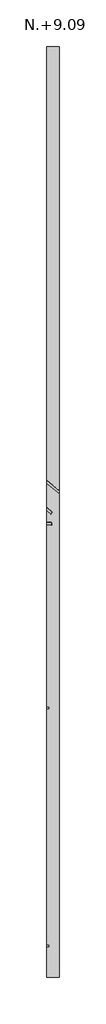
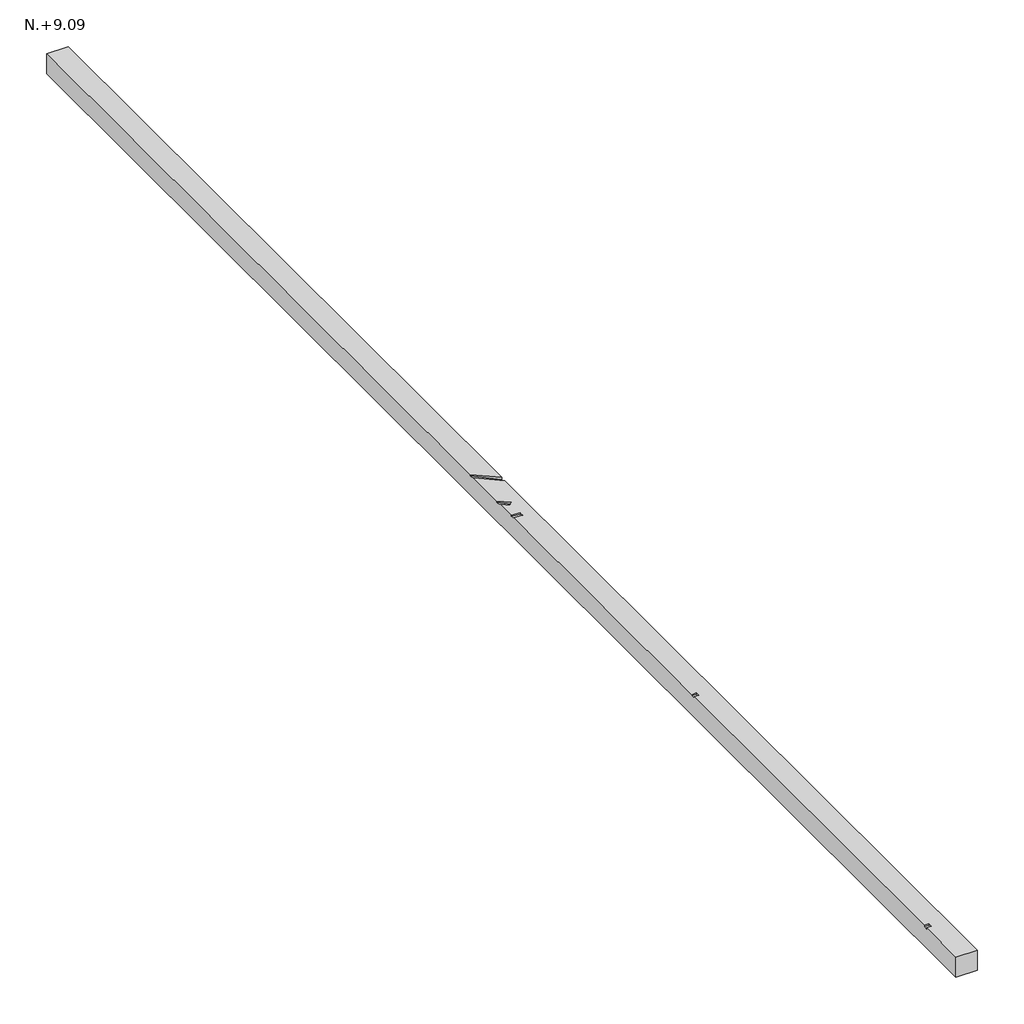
# One storey: 1 beam.
"""IFC4 building model written with IfcOpenShell, lengths in millimetres."""

from ifc_helpers import new_model, si_unit, origin, place, context, project, spatial, faceted_brep, element, save

model = new_model("IFC4")

# Units and contexts
model_context = context("Model", 3, world=origin())
ifc_project = project(units=[si_unit("LENGTHUNIT", "METRE", prefix="MILLI")], contexts=[model_context])

# Site, building, storey
site = spatial("IfcSite", under=ifc_project)
building = spatial("IfcBuilding", under=site)
storey = spatial("IfcBuildingStorey", under=building, Name="N.+9.09", Elevation=5490.0)

# Beam
placement = place(None, origin())
element("IfcBeam", 1, ObjectType="Concrete-Rectangular Beam : VG-301(15X15)", at=placement, inside=storey, context=model_context, shape_type="Brep", body=[
    faceted_brep([(6998.7018097, 11054.4702345, 5340.0), (7148.7018097, 11054.4702345, 5340.0), (7148.7018097, 11054.4702345, 5190.0), (6998.7018097, 11054.4702345, 5190.0), (6998.7018097, 43.9809745, 5340.0), (6998.7018097, 43.9809745, 5190.0), (7148.7018097, 43.9809745, 5190.0), (7148.7018097, 43.9809745, 5340.0), (6998.7018097, 5924.1865988, 5340.0), (7148.7018097, 5802.7189938, 5340.0), (7148.7018097, 5801.8212036, 5322.3969479), (7148.7018097, 5763.1881058, 5322.3969479), (7148.7018097, 5764.0858961, 5340.0), (6998.7018097, 400.1773784, 5340.0), (6998.7018097, 400.1773784, 5331.8442748), (6998.7018097, 430.1773784, 5331.8442748), (6998.7018097, 430.1773784, 5340.0), (6998.7018097, 3214.7441735, 5340.0), (6998.7018097, 3214.7441735, 5331.8442748), (6998.7018097, 3244.7441735, 5331.8442748), (6998.7018097, 3244.7441735, 5340.0), (6998.7018097, 5397.8265054, 5340.0), (6998.7018097, 5397.7996386, 5331.8442748), (6998.7018097, 5427.840809, 5331.8442748), (6998.7018097, 5427.8676758, 5340.0), (6998.7018097, 5564.0810694, 5340.0), (6998.7018097, 5563.6651114, 5331.8442748), (6998.7018097, 5602.2982092, 5331.8442748), (6998.7018097, 5602.7141672, 5340.0), (6998.7018097, 5885.553501, 5340.0), (6998.7018097, 5885.137543, 5331.8442748), (6998.7018097, 5923.7706408, 5331.8442748), (7058.3670452, 5394.6665203, 5328.0864282), (7059.117388, 5394.6665203, 5340.0), (7059.9340191, 5424.6254064, 5327.9877368), (7060.6905776, 5424.6254064, 5340.0), (7031.3040662, 400.1773784, 5329.7909136), (7031.9470567, 400.1773784, 5340.0), (7031.3040662, 430.1773784, 5329.7909136), (7031.9470567, 430.1773784, 5340.0), (7031.3040662, 3214.7441735, 5329.7909136), (7031.9470567, 3214.7441735, 5340.0), (7031.3040662, 3244.7441735, 5329.7909136), (7031.9470567, 3244.7441735, 5340.0), (7065.4814895, 5548.0065801, 5327.638345), (7066.2600535, 5548.0065801, 5340.0), (7046.6166904, 5524.7104932, 5328.8264912), (7047.3204223, 5524.7104932, 5340.0)], [[[0, 1, 2, 3]], [[4, 5, 6, 7]], [[1, 0, 8, 9]], [[2, 1, 9, 10, 11, 12, 7, 6]], [[3, 2, 6, 5]], [[0, 3, 5, 4, 13, 14, 15, 16, 17, 18, 19, 20, 21, 22, 23, 24, 25, 26, 27, 28, 29, 30, 31, 8]], [[32, 22, 21, 33]], [[32, 34, 23, 22]], [[23, 34, 35, 24]], [[36, 14, 13, 37]], [[36, 38, 15, 14]], [[15, 38, 39, 16]], [[40, 18, 17, 41]], [[40, 42, 19, 18]], [[19, 42, 43, 20]], [[27, 44, 45, 28]], [[46, 44, 27, 26]], [[46, 26, 25, 47]], [[31, 10, 9, 8]], [[10, 31, 30, 11]], [[11, 30, 29, 12]], [[34, 32, 33, 35]], [[38, 36, 37, 39]], [[42, 40, 41, 43]], [[44, 46, 47, 45]], [[4, 7, 12, 29, 28, 45, 47, 25, 24, 35, 33, 21, 20, 43, 41, 17, 16, 39, 37, 13]]]),
])

save(model, "model.ifc")
